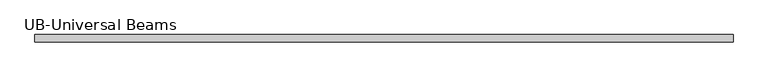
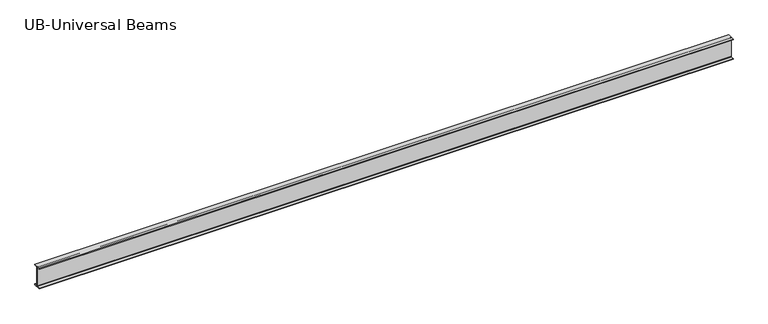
"""IFC4 building model written with IfcOpenShell, lengths in millimetres: beam geometry."""

import ifcopenshell
import ifcopenshell.guid

model = None  # the IFC model being written
_history = None  # IfcOwnerHistory: only IFC2X3 demands one
_inside = {}  # id of a spatial element -> (the spatial element, [elements in it])
_under = {}  # id of a project, library or spatial element -> (it, [spatial elements below it])
_declared = {}  # id of a project -> (the project, [libraries it declares])
_typed = {}  # id of a type object -> (the type object, [elements of that type])
_made_of = {}  # id of a material, layer set ... -> (it, [elements and type objects made of it])


def new_model(schema):
    """Start an empty IFC model of exactly this schema.

    Asked for "IFC4X3", IfcOpenShell would pick the latest addendum, in which some entities
    have other attributes; the version numbers below select the first issue.
    IFC2X3 requires an IfcOwnerHistory on every rooted entity: one is made here for all.
    """
    global model, _history
    if schema == "IFC4X3":
        model = ifcopenshell.file(schema_version=(4, 3, 0, 0))
    else:
        model = ifcopenshell.file(schema=schema)
    _inside.clear()
    _under.clear()
    _declared.clear()
    _typed.clear()
    _made_of.clear()
    _history = None
    if model.schema == "IFC2X3":
        org = make("IfcOrganization", Name="unknown")
        user = make(
            "IfcPersonAndOrganization",
            ThePerson=make("IfcPerson", FamilyName="unknown"),
            TheOrganization=org,
        )
        app = make(
            "IfcApplication",
            ApplicationDeveloper=org,
            Version="unknown",
            ApplicationFullName="unknown",
            ApplicationIdentifier="unknown",
        )
        _history = make(
            "IfcOwnerHistory",
            OwningUser=user,
            OwningApplication=app,
            ChangeAction="ADDED",
            CreationDate=0,
        )
    return model


def make(cls, **values):
    """One entity of the class cls with the attributes given. An attribute that is None is left unset."""
    return model.create_entity(
        cls, **{name: value for name, value in values.items() if value is not None}
    )


def rooted(cls, **values):
    """An entity with a GlobalId (a new one), such as an element, a storey or a relation."""
    return make(cls, GlobalId=ifcopenshell.guid.new(), OwnerHistory=_history, **values)


def si_unit(unit_type, name, prefix=None):
    """IfcSIUnit, for example si_unit("LENGTHUNIT", "METRE", prefix="MILLI")."""
    return make("IfcSIUnit", UnitType=unit_type, Prefix=prefix, Name=name)


def assignment(units):
    """IfcUnitAssignment: the units of a project."""
    return None if units is None else make("IfcUnitAssignment", Units=units)


def point(xyz):
    """IfcCartesianPoint."""
    return None if xyz is None else make("IfcCartesianPoint", Coordinates=xyz)


def direction(xyz):
    """IfcDirection."""
    return None if xyz is None else make("IfcDirection", DirectionRatios=xyz)


def frame(location, z_axis=None, x_axis=None):
    """IfcAxis2Placement3D, a coordinate frame: its origin and axes. An axis left out is left unset."""
    return make(
        "IfcAxis2Placement3D",
        Location=point(location),
        Axis=direction(z_axis),
        RefDirection=direction(x_axis),
    )


def frame_2d(location, x_axis=None):
    """IfcAxis2Placement2D, a coordinate frame in the plane: its origin and x axis."""
    return make(
        "IfcAxis2Placement2D", Location=point(location), RefDirection=direction(x_axis)
    )


def origin():
    """The frame at (0, 0, 0) with its axes left unset."""
    return frame((0.0, 0.0, 0.0))


def place(relative_to, where):
    """IfcLocalPlacement: puts the frame where relative to a parent placement (None: the world)."""
    return make(
        "IfcLocalPlacement", PlacementRelTo=relative_to, RelativePlacement=where
    )


def context(
    kind, dimensions, precision=None, world=None, true_north=None, identifier=None
):
    """IfcGeometricRepresentationContext, for example the 3D "Model" context."""
    return make(
        "IfcGeometricRepresentationContext",
        ContextIdentifier=identifier,
        ContextType=kind,
        CoordinateSpaceDimension=dimensions,
        Precision=precision,
        WorldCoordinateSystem=world,
        TrueNorth=true_north,
    )


def project(units=None, contexts=None):
    """IfcProject with its units and contexts."""
    return rooted(
        "IfcProject",
        Name="project",
        RepresentationContexts=contexts,
        UnitsInContext=assignment(units),
    )


def spatial(cls, under=None, at=None, **own):
    """A site, building, storey or space (cls), placed at a placement, below another one or the project."""
    s = rooted(cls, ObjectPlacement=at, **own)
    if under is not None:
        _under.setdefault(under.id(), (under, []))[1].append(s)
    return s


def polyline(points):
    """IfcPolyline through the points."""
    return make("IfcPolyline", Points=[point(p) for p in points])


def circle_curve(where, radius):
    """IfcCircle in the frame where."""
    return make("IfcCircle", Position=where, Radius=radius)


def trimmed(basis, trim1, trim2, sense, master):
    """IfcTrimmedCurve: the piece of a basis curve between two trims."""
    return make(
        "IfcTrimmedCurve",
        BasisCurve=basis,
        Trim1=trim1,
        Trim2=trim2,
        SenseAgreement=sense,
        MasterRepresentation=master,
    )


def segment(curve, same_sense, transition):
    """IfcCompositeCurveSegment."""
    return make(
        "IfcCompositeCurveSegment",
        Transition=transition,
        SameSense=same_sense,
        ParentCurve=curve,
    )


def composite_curve(segments, self_intersect=None):
    """IfcCompositeCurve: segments joined end to end."""
    return make("IfcCompositeCurve", Segments=segments, SelfIntersect=self_intersect)


def outline(outer, holes=None, kind="AREA"):
    """IfcArbitraryClosedProfileDef: a profile drawn as a closed curve; with holes, ...WithVoids."""
    if holes is None:
        return make("IfcArbitraryClosedProfileDef", ProfileType=kind, OuterCurve=outer)
    return make(
        "IfcArbitraryProfileDefWithVoids",
        ProfileType=kind,
        OuterCurve=outer,
        InnerCurves=holes,
    )


def extrude(swept, where, along, depth):
    """IfcExtrudedAreaSolid: the profile swept, set in the frame where, extruded along a direction by depth."""
    return make(
        "IfcExtrudedAreaSolid",
        SweptArea=swept,
        Position=where,
        ExtrudedDirection=direction(along),
        Depth=depth,
    )


def shape(context_of_items, identifier, shape_type, items):
    """IfcShapeRepresentation: the items that make up one representation, for example the "Body"."""
    return make(
        "IfcShapeRepresentation",
        ContextOfItems=context_of_items,
        RepresentationIdentifier=identifier,
        RepresentationType=shape_type,
        Items=items,
    )


def source(mapping_origin, context_of_items, identifier, shape_type, items):
    """IfcRepresentationMap: a shape defined once, which mapped items show again and again."""
    return make(
        "IfcRepresentationMap",
        MappingOrigin=mapping_origin,
        MappedRepresentation=shape(context_of_items, identifier, shape_type, items),
    )


def transform(
    local_origin,
    x_axis=None,
    y_axis=None,
    z_axis=None,
    scale=None,
    scale2=None,
    scale3=None,
    uniform=True,
):
    """IfcCartesianTransformationOperator3D, or its non-uniform kind. x_axis, y_axis, z_axis: its Axis1, 2, 3."""
    if uniform:
        return make(
            "IfcCartesianTransformationOperator3D",
            Axis1=direction(x_axis),
            Axis2=direction(y_axis),
            LocalOrigin=point(local_origin),
            Scale=scale,
            Axis3=direction(z_axis),
        )
    return make(
        "IfcCartesianTransformationOperator3DnonUniform",
        Axis1=direction(x_axis),
        Axis2=direction(y_axis),
        LocalOrigin=point(local_origin),
        Scale=scale,
        Axis3=direction(z_axis),
        Scale2=scale2,
        Scale3=scale3,
    )


def mapped(mapping_source, mapping_target):
    """IfcMappedItem: shows the shape of a source again, moved by a transform."""
    return make(
        "IfcMappedItem", MappingSource=mapping_source, MappingTarget=mapping_target
    )


def made_of(thing, what):
    """Note that an element or type object is made of a material, layer set ...; save() writes the relation."""
    if what is not None:
        _made_of.setdefault(what.id(), (what, []))[1].append(thing)
    return thing


def element(
    cls,
    number,
    at=None,
    inside=None,
    cuts=None,
    type_object=None,
    material=None,
    context=None,
    identifier="Body",
    shape_type=None,
    held_by="IfcProductDefinitionShape",
    body=None,
    shapes=None,
    **own,
):
    """One element of the class cls, such as IfcWall. Its Tag is "e" and its number.

    at: its placement. inside: the storey or other place that contains it. cuts: it is an
    opening in that element (IfcRelVoidsElement). A single representation is given by context,
    identifier, shape_type and body (its items); several are given by shapes. held_by: the class
    of the entity that holds the representations. save() writes the other relations.
    """
    e = rooted(cls, Tag="e%d" % number, ObjectPlacement=at, **own)
    if body is not None:
        shapes = [shape(context, identifier, shape_type, body)]
    if shapes is not None:
        e.Representation = make(held_by, Representations=shapes)
    if inside is not None:
        _inside.setdefault(inside.id(), (inside, []))[1].append(e)
    if cuts is not None:
        rooted(
            "IfcRelVoidsElement", RelatingBuildingElement=cuts, RelatedOpeningElement=e
        )
    if type_object is not None:
        _typed.setdefault(type_object.id(), (type_object, []))[1].append(e)
    return made_of(e, material)


def aggregate(whole, parts):
    """IfcRelAggregates: a whole, such as a stair, and the parts it consists of."""
    return rooted("IfcRelAggregates", RelatingObject=whole, RelatedObjects=parts)


def save(model, path):
    """Write the relations noted so far, then the file.

    IfcRelAggregates (storeys below a building ...), IfcRelContainedInSpatialStructure (elements
    in a storey), IfcRelDefinesByType, IfcRelAssociatesMaterial and IfcRelDeclares: one each for
    every whole, place, type object, material and project.
    """
    for whole, parts in _under.values():
        aggregate(whole, parts)
    for where, things in _inside.values():
        rooted(
            "IfcRelContainedInSpatialStructure",
            RelatedElements=things,
            RelatingStructure=where,
        )
    for kind, things in _typed.values():
        rooted("IfcRelDefinesByType", RelatedObjects=things, RelatingType=kind)
    for what, things in _made_of.values():
        rooted("IfcRelAssociatesMaterial", RelatedObjects=things, RelatingMaterial=what)
    for by, libraries in _declared.values():
        rooted("IfcRelDeclares", RelatingContext=by, RelatedDefinitions=libraries)
    model.write(path)


def ub_universal_beams_813faa96(model_context):
    return source(origin(), model_context, "Body", "SweptSolid", [
        extrude(outline(composite_curve([segment(polyline([(76.9, -214.0), (76.9, -229.0), (-76.9, -229.0), (-76.9, -214.0), (-14.7, -214.0)]), True, "CONTINUOUS"), segment(trimmed(circle_curve(frame_2d((-14.7, -203.8)), 10.2), [point((-14.7, -214.0))], [point((-4.5, -203.8))], True, "CARTESIAN"), True, "CONTINUOUS"), segment(polyline([(-4.5, -203.8), (-4.5, 203.8)]), True, "CONTINUOUS"), segment(trimmed(circle_curve(frame_2d((-14.7, 203.8)), 10.2), [point((-4.5, 203.8))], [point((-14.7, 214.0))], True, "CARTESIAN"), True, "CONTINUOUS"), segment(polyline([(-14.7, 214.0), (-76.9, 214.0), (-76.9, 229.0), (76.9, 229.0), (76.9, 214.0), (14.7, 214.0)]), True, "CONTINUOUS"), segment(trimmed(circle_curve(frame_2d((14.7, 203.8)), 10.2), [point((14.7, 214.0))], [point((4.5, 203.8))], True, "CARTESIAN"), True, "CONTINUOUS"), segment(polyline([(4.5, 203.8), (4.5, -203.8)]), True, "CONTINUOUS"), segment(trimmed(circle_curve(frame_2d((14.7, -203.8)), 10.2), [point((4.5, -203.8))], [point((14.7, -214.0))], True, "CARTESIAN"), True, "CONTINUOUS"), segment(polyline([(14.7, -214.0), (76.9, -214.0)]), True, "CONTINUOUS")], self_intersect=False)), frame((-7410.4, 0.0, 0.0), z_axis=(1.0, 0.0, 0.0), x_axis=(0.0, 1.0, 0.0)), (0.0, 0.0, 1.0), 14767.0),
    ])


if __name__ == "__main__":
    model = new_model("IFC4")
    model_context = context("Model", 3, world=origin())
    ifc_project = project(units=[si_unit("LENGTHUNIT", "METRE", prefix="MILLI")], contexts=[model_context])
    site = spatial("IfcSite", under=ifc_project)
    building = spatial("IfcBuilding", under=site)
    placement = place(None, origin())
    ub_universal_beams_shape = ub_universal_beams_813faa96(model_context)
    element("IfcBeam", 1, ObjectType="UB-Universal Beams : UB 18\" x 6\" x 2 1/2\"", at=placement, inside=building, context=model_context, shape_type="MappedRepresentation", body=[
        mapped(ub_universal_beams_shape, transform((0.0, 0.0, 0.0), x_axis=(1.0, 0.0, 0.0), y_axis=(0.0, 1.0, 0.0), z_axis=(0.0, 0.0, 1.0))),
    ])
    save(model, "model.ifc")
